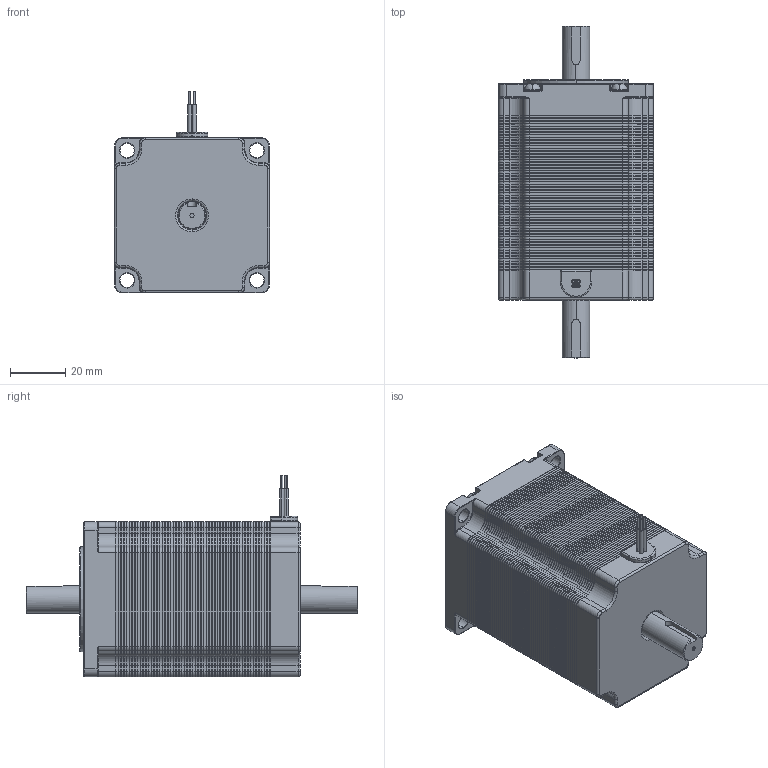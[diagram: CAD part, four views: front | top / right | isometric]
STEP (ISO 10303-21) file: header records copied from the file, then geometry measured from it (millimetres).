
FILE_DESCRIPTION (( 'STEP AP214' ), '1' );
FILE_NAME ('Nema 23 Stepper Motor length 80mm_10mm_key_DS.STEP', '2020-11-11T14:07:28', ( 'Moofasta' ), ( '' ), 'SwSTEP 2.0', 'SolidWorks 2020', '' );
FILE_SCHEMA (( 'AUTOMOTIVE_DESIGN' ));
Length unit declared in the file: millimetre
Products named in the file (1): Nema 23 Stepper Motor length 80mm_10mm_key_DS
Bounding box: 56.3 x 120.5 x 73.3 mm (x, y, z)
Volume: 229443.9 mm3; surface area: 349489.3 mm2
Topology: 72 solids, 72 shells, 4627 faces, 10524 edges, 6027 vertices
Faces by surface type: plane 2304, cone 1371, cylinder 838, torus 94, sphere 12, bspline 8
Entity records: 174229 total; most frequent: DIRECTION 22853, CARTESIAN_POINT 21671, ORIENTED_EDGE 21008, EDGE_CURVE 10504, AXIS2_PLACEMENT_3D 7809, VECTOR 7235, LINE 7235, VERTEX_POINT 6027
